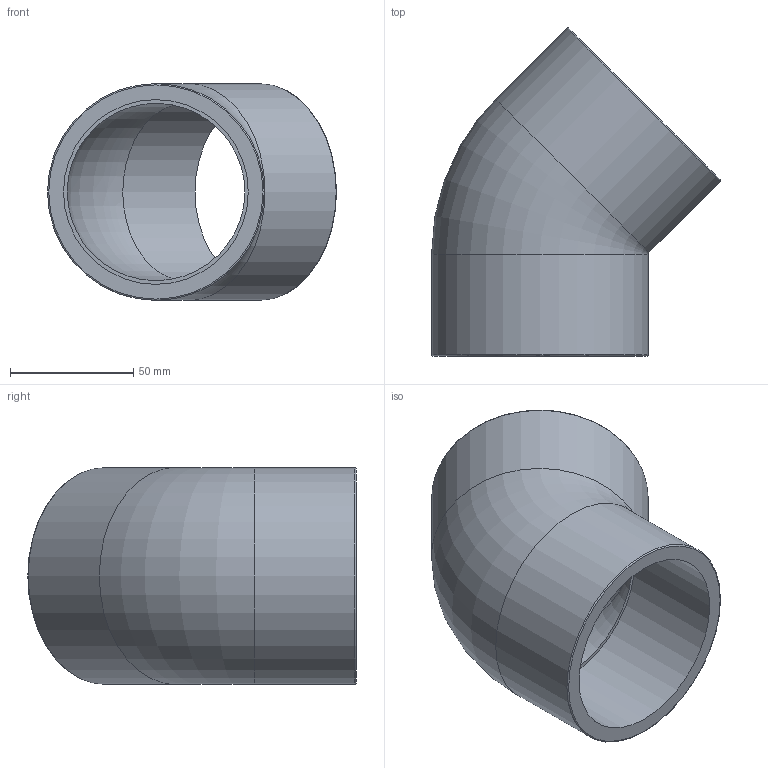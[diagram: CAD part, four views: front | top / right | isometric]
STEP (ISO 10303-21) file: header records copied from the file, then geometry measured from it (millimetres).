
FILE_DESCRIPTION(/* description */ ('PVC gomito a 45° incollaggio metrico'),/* implementation_level */ '2;1');
FILE_NAME(/* name */ 'C:\Users\POLYPIPE\Desktop\DATASET INVENTOR\LIBRERIA EFFAST\RACCORDI 3DxWEB\RDR\3D_RDRGYD\3D_RDRGYD0750.stp',/* time_stamp */ '2018-01-19T14:34:38+01:00',/* author */ ('POLYPIPE'),/* organization */ ('Polypipe Italia s.r.l.'),/* preprocessor_version */ 'ST-DEVELOPER v16.1',/* originating_system */ 'Autodesk Inventor 2016',/* authorisation */ '');
FILE_SCHEMA (('CONFIG_CONTROL_DESIGN'));
Length unit declared in the file: millimetre
Products named in the file (1): 3D_RDRGYD
Bounding box: 117.33 x 133.33 x 88 mm (x, y, z)
Volume: 207579.4 mm3; surface area: 64057.8 mm2
Topology: 1 solids, 1 shells, 12 faces, 20 edges, 12 vertices
Faces by surface type: torus 4, cylinder 4, plane 4
Full cylindrical faces by diameter (mm): 75 x2, 88 x2
Entity records: 396 total; most frequent: CARTESIAN_POINT 167, DIRECTION 46, EDGE_LOOP 24, ORIENTED_EDGE 24, AXIS2_PLACEMENT_3D 23, FACE_BOUND 12, FACE_OUTER_BOUND 12, VERTEX_POINT 12
